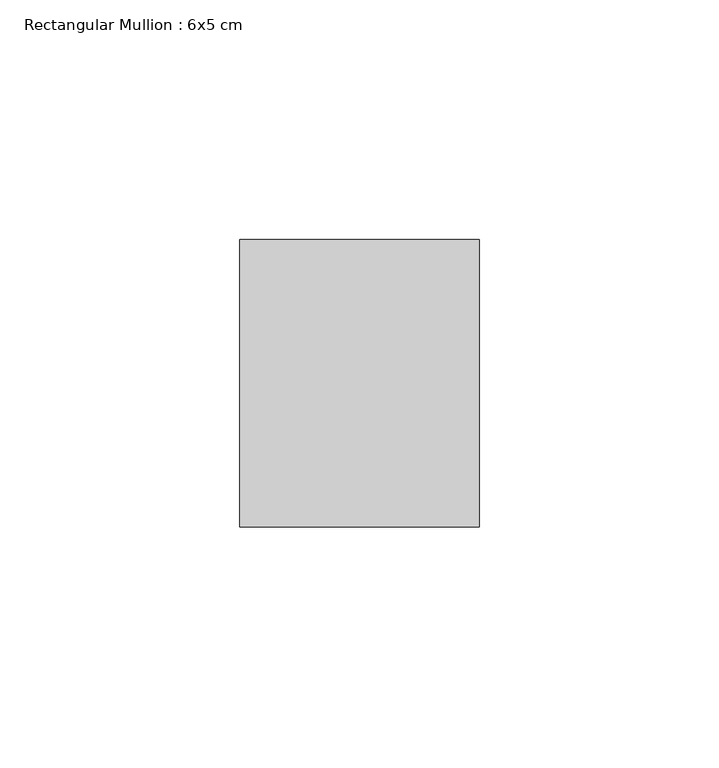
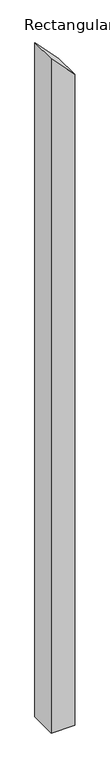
"""IFC4 building model written with IfcOpenShell, lengths in millimetres: member geometry, Rectangular Mullion : 6x5 cm."""

from ifc_helpers import new_model, si_unit, frame, origin, place, context, project, spatial, polyline, outline, extrude, source, transform, mapped, element, save


def rectangular_mullion_6x5_cm_cfa57f92(model_context):
    return source(origin(), model_context, "Body", "SweptSolid", [
        extrude(outline(polyline([(-98.3849277, 25.0), (-46.1833952, -25.0), (-1566.0459765, -25.0), (-1566.0459765, 25.0), (-98.3849277, 25.0)])), frame((0.0, 20.0, 0.0), z_axis=(0.0, 1.0, 0.0), x_axis=(0.0, 0.0, 1.0)), (0.0, 0.0, 1.0), 60.0),
    ])


if __name__ == "__main__":
    model = new_model("IFC4")
    model_context = context("Model", 3, world=origin())
    ifc_project = project(units=[si_unit("LENGTHUNIT", "METRE", prefix="MILLI")], contexts=[model_context])
    site = spatial("IfcSite", under=ifc_project)
    building = spatial("IfcBuilding", under=site)
    placement = place(None, origin())
    rectangular_mullion_6x5_cm_shape = rectangular_mullion_6x5_cm_cfa57f92(model_context)
    element("IfcMember", 1, ObjectType="Rectangular Mullion : 6x5 cm", at=placement, inside=building, context=model_context, shape_type="MappedRepresentation", body=[
        mapped(rectangular_mullion_6x5_cm_shape, transform((0.0, 0.0, 0.0), x_axis=(1.0, 0.0, 0.0), y_axis=(0.0, 1.0, 0.0), z_axis=(0.0, 0.0, 1.0))),
    ])
    save(model, "model.ifc")
